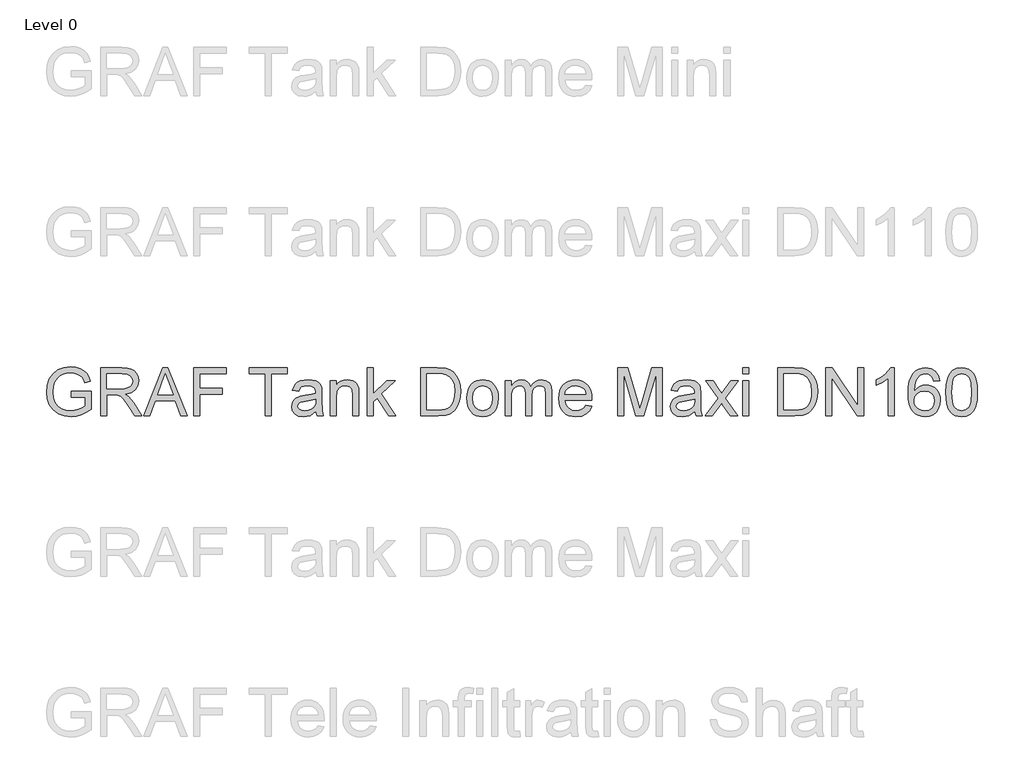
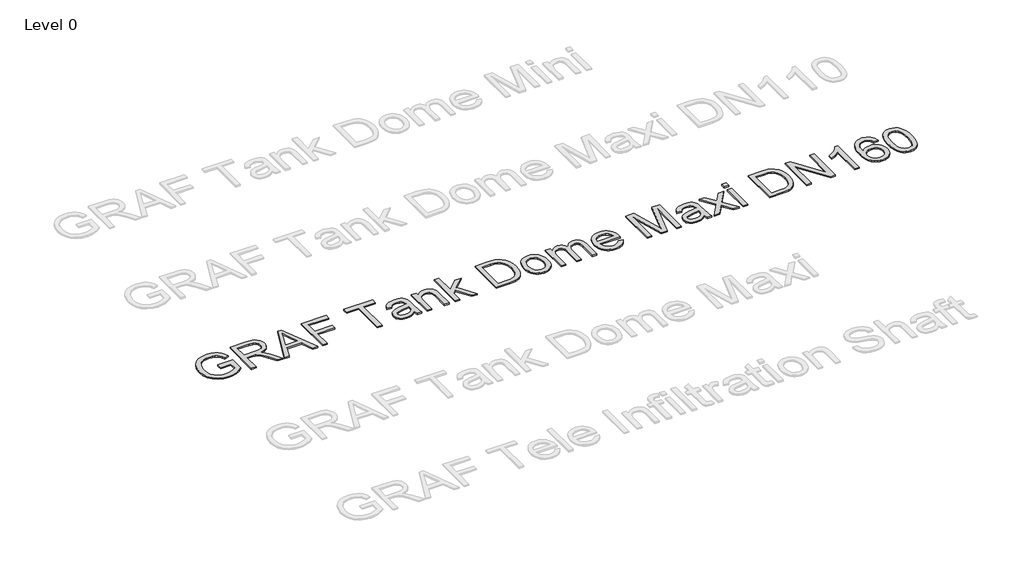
# One storey, part 8 of 25: 1 proxy.
"""IFC4 building model written with IfcOpenShell, lengths in millimetres."""

from ifc_helpers import new_model, si_unit, origin, origin_with_axes, place, context, project, spatial, polyline, outline, extrude, element, save

model = new_model("IFC4")

# Units and contexts
model_context = context("Model", 3, world=origin())
ifc_project = project(units=[si_unit("LENGTHUNIT", "METRE", prefix="MILLI")], contexts=[model_context])

# Site, building, storey
site = spatial("IfcSite", under=ifc_project)
building = spatial("IfcBuilding", under=site)
storey = spatial("IfcBuildingStorey", under=building, Name="Level 0", Elevation=0.0)

# Proxy
placement = place(None, origin())
element("IfcBuildingElementProxy", 1, Name="300mm Arial", ObjectType="300mm Arial", at=placement, inside=storey, context=model_context, shape_type="SweptSolid", body=[
    extrude(outline(polyline([(-15240.9940387, -4083.2545597), (-15240.9940387, -4045.5834434), (-15118.5629107, -4045.5834434), (-15118.5629107, -4158.2289103), (-15148.3153671, -4178.9222726), (-15179.0059225, -4193.7663111), (-15210.5610007, -4202.7058436), (-15242.9070251, -4205.6856877), (-15285.1674693, -4200.949207), (-15323.3628175, -4186.739765), (-15355.0926395, -4163.5540022), (-15377.9565055, -4131.8885595), (-15391.7796715, -4093.9047435), (-15396.3873935, -4051.7638609), (-15391.7980656, -4009.3194757), (-15378.0300819, -3969.8365406), (-15355.6536596, -3936.717964), (-15325.2390156, -3913.3666543), (-15288.1932987, -3899.5158972), (-15245.9236575, -3894.8989782), (-15214.8928112, -3897.5753197), (-15186.9889618, -3905.6043443), (-15163.4904994, -3918.4066377), (-15145.6758138, -3935.4027859), (-15132.4964413, -3957.4113262), (-15122.9039183, -3985.2507962), (-15157.6319786, -3995.0364573), (-15165.3850917, -3975.1800266), (-15174.8120678, -3960.1980323), (-15187.2832674, -3948.9040551), (-15204.169051, -3940.1116754), (-15224.3013932, -3934.4554897), (-15246.5122687, -3932.5700945), (-15272.5123287, -3934.6026425), (-15294.7415982, -3940.7002866), (-15313.1173039, -3950.0996716), (-15327.5566722, -3962.0374423), (-15346.9440533, -3991.0633317), (-15355.7732212, -4019.50061), (-15358.7162772, -4050.2187566), (-15355.175413, -4086.2436009), (-15344.5528204, -4115.8856927), (-15327.1703961, -4138.9334997), (-15303.3500369, -4155.1754898), (-15275.4737787, -4164.804801), (-15245.9236575, -4168.0145714), (-15219.831627, -4165.5957473), (-15194.3833899, -4158.3392749), (-15172.2828791, -4148.3420817), (-15156.234027, -4137.701095), (-15156.234027, -4083.2545597), (-15240.9940387, -4083.2545597)])), origin_with_axes(), (0.0, 0.0, 1.0), 10.0),
    extrude(outline(polyline([(-15057.3473467, -4200.9767982), (-15057.3473467, -3899.6078677), (-14927.4850024, -3899.6078677), (-14892.5821982, -3901.6404158), (-14867.1891434, -3907.7380598), (-14848.6294968, -3918.9952489), (-14834.2269167, -3936.5064318), (-14824.9838815, -3958.2206666), (-14821.9028698, -3982.087011), (-14827.0072325, -4011.7750881), (-14842.3203206, -4036.3863935), (-14853.9200997, -4046.4157764), (-14868.3019865, -4054.4310054), (-14905.4120827, -4064.4190016), (-14884.0013506, -4080.532233), (-14853.467145, -4119.3069952), (-14803.2144645, -4200.9767982), (-14846.9924219, -4200.9767982), (-14886.2086426, -4138.5104354), (-14914.5355562, -4097.1604991), (-14934.4379722, -4077.6259652), (-14952.3538253, -4070.4522663), (-14974.2060158, -4069.1278911), (-15019.6762304, -4069.1278911), (-15019.6762304, -4200.9767982), (-15057.3473467, -4200.9767982)]), holes=[polyline([(-15019.6762304, -4031.4567748), (-14935.3576771, -4031.4567748), (-14911.1418448, -4030.1232026), (-14892.3522719, -4026.1224859), (-14878.2072092, -4019.1879103), (-14867.9249074, -4009.0527613), (-14861.6617165, -3996.7930938), (-14859.5739861, -3983.4849626), (-14863.5563087, -3965.109257), (-14875.5032765, -3950.3020067), (-14896.058683, -3940.5347397), (-14925.8663217, -3937.278984), (-15019.6762304, -3937.278984), (-15019.6762304, -4031.4567748)])]), origin_with_axes(), (0.0, 0.0, 1.0), 10.0),
    extrude(outline(polyline([(-14791.0743586, -4200.9767982), (-14670.7769462, -3899.6078677), (-14638.6976362, -3899.6078677), (-14518.4002238, -4200.9767982), (-14558.2050557, -4200.9767982), (-14592.7123868, -4106.7990074), (-14716.835772, -4106.7990074), (-14751.2695268, -4200.9767982), (-14791.0743586, -4200.9767982)]), holes=[polyline([(-14703.003409, -4069.1278911), (-14606.4711735, -4069.1278911), (-14633.6208647, -3995.0364573), (-14654.7372912, -3937.278984), (-14673.499273, -3988.5617342), (-14703.003409, -4069.1278911)])]), origin_with_axes(), (0.0, 0.0, 1.0), 10.0),
    extrude(outline(polyline([(-14478.1539335, -4200.9767982), (-14478.1539335, -3899.6078677), (-14275.6716834, -3899.6078677), (-14275.6716834, -3937.278984), (-14440.4828172, -3937.278984), (-14440.4828172, -4026.7478853), (-14299.2161311, -4026.7478853), (-14299.2161311, -4064.4190016), (-14440.4828172, -4064.4190016), (-14440.4828172, -4200.9767982), (-14478.1539335, -4200.9767982)])), origin_with_axes(), (0.0, 0.0, 1.0), 10.0),
    extrude(outline(polyline([(-14030.8094274, -4200.9767982), (-14030.8094274, -3937.278984), (-14129.6961077, -3937.278984), (-14129.6961077, -3899.6078677), (-13894.2516308, -3899.6078677), (-13894.2516308, -3937.278984), (-13993.1383111, -3937.278984), (-13993.1383111, -4200.9767982), (-14030.8094274, -4200.9767982)])), origin_with_axes(), (0.0, 0.0, 1.0), 10.0),
    extrude(outline(polyline([(-13715.3138283, -4172.7234609), (-13733.312455, -4188.1561106), (-13751.8445105, -4198.2544714), (-13771.3330592, -4203.8278836), (-13792.2011653, -4205.6856877), (-13823.6826671, -4201.2159215), (-13846.905218, -4187.8066228), (-13861.2250247, -4167.4443543), (-13865.9982936, -4142.1156789), (-13864.1956718, -4126.4990883), (-13858.7878065, -4112.3172373), (-13850.4460822, -4100.1771315), (-13839.8418837, -4090.685776), (-13813.4647447, -4078.324941), (-13780.8703999, -4072.6595583), (-13742.353155, -4066.6998699), (-13715.5345575, -4059.710112), (-13715.3138283, -4051.3224025), (-13717.9073964, -4034.5101954), (-13725.6881006, -4023.5105237), (-13743.088919, -4015.3435434), (-13767.3323425, -4012.6212166), (-13789.7731442, -4014.4330355), (-13805.4449172, -4019.868492), (-13816.1318891, -4029.9208675), (-13823.6182877, -4045.5834434), (-13861.289404, -4040.8745539), (-13854.7503016, -4020.2731621), (-13844.9922316, -4004.0863544), (-13831.1046863, -3991.7071252), (-13812.1771577, -3982.5284694), (-13789.0281831, -3976.8446926), (-13762.4763001, -3974.9501003), (-13737.009669, -3976.6239634), (-13716.8221445, -3981.6455527), (-13701.601027, -3989.1963306), (-13691.0336167, -3998.4577598), (-13684.0254646, -4009.9080869), (-13679.482122, -4024.0255585), (-13677.642712, -4056.9877853), (-13677.642712, -4103.8559515), (-13675.7297257, -4169.3021584), (-13668.224933, -4200.9767982), (-13705.8960493, -4200.9767982), (-13715.3138283, -4172.7234609)]), holes=[polyline([(-13715.3138283, -4097.3812283), (-13776.0879339, -4108.932723), (-13808.4983377, -4115.0395641), (-13823.1768293, -4124.972378), (-13828.3271773, -4139.4669286), (-13825.522077, -4150.6689353), (-13817.1067764, -4159.8475911), (-13803.2652163, -4165.9728263), (-13784.1813378, -4168.0145714), (-13763.9478281, -4165.7612942), (-13746.0687631, -4159.0014625), (-13731.5742125, -4149.0410575), (-13721.4942459, -4137.1860602), (-13717.0244796, -4124.972378), (-13715.5345575, -4108.0498062), (-13715.3138283, -4097.3812283)])]), origin_with_axes(), (0.0, 0.0, 1.0), 10.0),
    extrude(outline(polyline([(-13625.8449271, -4200.9767982), (-13625.8449271, -3979.6589899), (-13588.1738108, -3979.6589899), (-13588.1738108, -4010.5610775), (-13575.0864088, -3994.981275), (-13559.3686506, -3983.8528446), (-13541.0205361, -3977.1757864), (-13520.0420653, -3974.9501003), (-13501.4732216, -3976.7435251), (-13484.4678764, -3982.1237992), (-13470.2860255, -3990.4195382), (-13460.1876647, -4000.9593574), (-13448.8936874, -4028.6608716), (-13446.9071247, -4065.0811892), (-13446.9071247, -4200.9767982), (-13484.578241, -4200.9767982), (-13484.578241, -4070.1579607), (-13488.9192485, -4036.8278519), (-13494.9249221, -4026.9042351), (-13504.2599277, -4019.2063044), (-13516.2252896, -4014.2674886), (-13530.122032, -4012.6212166), (-13552.1857546, -4016.3184307), (-13570.9937216, -4027.4100729), (-13578.5100106, -4036.4645685), (-13583.8787885, -4048.8391991), (-13588.1738108, -4083.5488653), (-13588.1738108, -4200.9767982), (-13625.8449271, -4200.9767982)])), origin_with_axes(), (0.0, 0.0, 1.0), 10.0),
    extrude(outline(polyline([(-13395.1093397, -4200.9767982), (-13395.1093397, -3899.6078677), (-13357.4382234, -3899.6078677), (-13357.4382234, -4061.549522), (-13272.9725173, -3979.6589899), (-13220.8804268, -3979.6589899), (-13306.3762025, -4062.5795916), (-13216.1715373, -4200.9767982), (-13260.1702239, -4200.9767982), (-13333.3787409, -4088.7727896), (-13357.4382234, -4112.0965081), (-13357.4382234, -4200.9767982), (-13395.1093397, -4200.9767982)])), origin_with_axes(), (0.0, 0.0, 1.0), 10.0),
    extrude(outline(polyline([(-13060.7781825, -4200.9767982), (-13060.7781825, -3899.6078677), (-12956.8147307, -3899.6078677), (-12903.030383, -3903.9488753), (-12879.0076887, -3912.3181907), (-12858.7373908, -3925.5067602), (-12837.8968757, -3948.4625967), (-12823.0528372, -3977.0102395), (-12814.1684871, -4010.5978657), (-12811.207037, -4048.6736522), (-12813.2119939, -4081.0196766), (-12819.2268645, -4109.484546), (-12828.3871262, -4133.7187724), (-12839.8282562, -4153.372868), (-12852.9984316, -4168.8882911), (-12867.3458295, -4180.7065002), (-12883.8177458, -4189.4712888), (-12903.3614768, -4195.8264502), (-12951.8115355, -4200.9767982), (-13060.7781825, -4200.9767982)]), holes=[polyline([(-13023.1070662, -4163.3056819), (-12956.4468487, -4163.3056819), (-12928.8740931, -4161.9445185), (-12907.9600017, -4157.8610283), (-12892.1778641, -4151.2943347), (-12880.0009701, -4142.4835609), (-12866.9135681, -4126.1771915), (-12857.0819218, -4105.069962), (-12850.9290954, -4079.069902), (-12848.8781533, -4048.085041), (-12852.8972641, -4007.0294103), (-12864.9545965, -3976.7159339), (-12882.7692821, -3955.893813), (-12904.0604526, -3943.3122488), (-12925.7287021, -3938.7873002), (-12957.4769183, -3937.278984), (-13023.1070662, -3937.278984), (-13023.1070662, -4163.3056819)])]), origin_with_axes(), (0.0, 0.0, 1.0), 10.0),
    extrude(outline(polyline([(-12773.5359207, -4090.317894), (-12771.4987741, -4061.6552881), (-12765.3873345, -4036.9566106), (-12755.2016018, -4016.2218617), (-12740.9415759, -3999.4510412), (-12726.5849811, -3988.7318796), (-12710.7384641, -3981.0753356), (-12693.4020251, -3976.4814091), (-12674.575664, -3974.9501003), (-12653.7926305, -3976.8148022), (-12635.0007584, -3982.4089078), (-12618.2000475, -3991.7324171), (-12603.3904979, -4004.7853302), (-12591.3032751, -4021.1261885), (-12582.6695445, -4040.3135338), (-12577.4893062, -4062.3473661), (-12575.7625601, -4087.2276853), (-12578.8159806, -4125.2850777), (-12587.9762423, -4154.2557848), (-12602.9766307, -4175.9516255), (-12623.5504313, -4192.1844185), (-12647.9869928, -4202.3103704), (-12674.575664, -4205.6856877), (-12695.6622001, -4203.8278836), (-12714.6288162, -4198.2544714), (-12731.4755123, -4188.965451), (-12746.2022884, -4175.9608225), (-12758.1607526, -4159.461315), (-12766.7025126, -4139.6876578), (-12771.8275687, -4116.6398508), (-12773.5359207, -4090.317894)]), holes=[polyline([(-12735.8648044, -4090.2443176), (-12731.5054027, -4124.3377815), (-12718.4271978, -4148.6271903), (-12698.7455111, -4163.1677261), (-12674.575664, -4168.0145714), (-12650.5161815, -4163.140135), (-12630.871283, -4148.5168257), (-12617.793078, -4123.9055202), (-12613.4336764, -4089.0670952), (-12617.8206692, -4055.9669127), (-12630.9816476, -4032.0085978), (-12650.6541372, -4017.4680619), (-12674.575664, -4012.6212166), (-12698.7455111, -4017.4496678), (-12718.4271978, -4031.9350214), (-12731.5054027, -4056.1692478), (-12735.8648044, -4090.2443176)])]), origin_with_axes(), (0.0, 0.0, 1.0), 10.0),
    extrude(outline(polyline([(-12533.3825542, -4200.9767982), (-12533.3825542, -3979.6589899), (-12495.7114379, -3979.6589899), (-12495.7114379, -4016.0793074), (-12484.3806725, -3999.3498737), (-12469.8125455, -3986.2440776), (-12452.5036976, -3977.7735947), (-12432.9507696, -3974.9501003), (-12411.9998899, -3977.828777), (-12395.2060768, -3986.4648068), (-12382.6613008, -4000.2879728), (-12374.4575323, -4018.7280578), (-12360.7263368, -3999.5752014), (-12345.0637609, -3985.8945897), (-12327.4698045, -3977.6862227), (-12307.9444676, -3974.9501003), (-12279.626751, -3979.50264), (-12258.6850684, -3993.1602591), (-12245.7448193, -4016.2908395), (-12241.4314029, -4049.2622634), (-12241.4314029, -4200.9767982), (-12279.1025192, -4200.9767982), (-12279.1025192, -4065.4490712), (-12282.5973981, -4033.9951606), (-12287.5086228, -4025.3223425), (-12295.2525388, -4018.5073286), (-12305.2129438, -4014.0927446), (-12316.7736355, -4012.6212166), (-12337.1818892, -4016.3920071), (-12353.8193524, -4027.7043784), (-12364.8834034, -4047.3308829), (-12368.5714204, -4076.0440726), (-12368.5714204, -4200.9767982), (-12406.2425367, -4200.9767982), (-12406.2425367, -4061.2552164), (-12408.4222375, -4039.9548489), (-12414.96134, -4024.7613225), (-12426.4668494, -4015.6562431), (-12443.545771, -4012.6212166), (-12458.0587157, -4014.6445676), (-12471.4312262, -4020.7146205), (-12482.4676861, -4030.6842226), (-12489.9724788, -4044.406221), (-12494.2766981, -4063.4441143), (-12495.7114379, -4089.3614008), (-12495.7114379, -4200.9767982), (-12533.3825542, -4200.9767982)])), origin_with_axes(), (0.0, 0.0, 1.0), 10.0),
    extrude(outline(polyline([(-12029.972832, -4135.0523446), (-11993.0374797, -4139.7612342), (-12006.3456109, -4167.5915071), (-12027.5815991, -4188.3952339), (-12056.2671976, -4201.3630743), (-12091.92416, -4205.6856877), (-12115.2984623, -4203.8209859), (-12136.1251817, -4198.2268803), (-12154.4043184, -4188.9033709), (-12170.1358722, -4175.8504579), (-12182.7864143, -4159.4314246), (-12191.8225158, -4140.0095545), (-12197.2441767, -4117.5848477), (-12199.051397, -4092.157304), (-12197.2257826, -4065.8675369), (-12191.7489394, -4042.6955698), (-12182.6208674, -4022.6414025), (-12169.8415666, -4005.7050351), (-12154.1513995, -3992.2497512), (-12136.2907286, -3982.638834), (-12116.259554, -3976.8722838), (-12094.0578756, -3974.9501003), (-12072.5712678, -3976.8676852), (-12053.1402007, -3982.6204399), (-12035.7646742, -3992.2083644), (-12020.4446884, -4005.6314587), (-12007.9389998, -4022.5310379), (-11999.0063651, -4042.548417), (-11993.6467843, -4065.6835959), (-11991.8602573, -4091.9365748), (-11992.0809865, -4102.0901179), (-12161.3802807, -4102.0901179), (-12154.8595723, -4130.2882728), (-12139.7120312, -4151.0184232), (-12117.8506436, -4163.7655344), (-12091.188396, -4168.0145714), (-12071.1388273, -4166.0464027), (-12054.2530437, -4160.1418967), (-12040.5310453, -4149.9331713), (-12029.972832, -4135.0523446)]), holes=[polyline([(-12161.3802807, -4064.4190016), (-12029.5313736, -4064.4190016), (-12034.6265393, -4044.5165856), (-12044.6145354, -4030.2795524), (-12066.5770906, -4017.0358006), (-12094.2050284, -4012.6212166), (-12119.5980831, -4016.1436868), (-12140.594948, -4026.7110971), (-12155.1906661, -4043.1830134), (-12161.3802807, -4064.4190016)])]), origin_with_axes(), (0.0, 0.0, 1.0), 10.0),
    extrude(outline(polyline([(-11831.758013, -4200.9767982), (-11831.758013, -3899.6078677), (-11766.9372055, -3899.6078677), (-11705.2801831, -4112.0229317), (-11692.8457717, -4156.3895004), (-11679.3812906, -4108.3441118), (-11618.7543378, -3899.6078677), (-11553.9335303, -3899.6078677), (-11553.9335303, -4200.9767982), (-11591.6046466, -4200.9767982), (-11591.6046466, -3937.278984), (-11667.3147612, -4200.9767982), (-11718.3767821, -4200.9767982), (-11794.0868967, -3937.278984), (-11794.0868967, -4200.9767982), (-11831.758013, -4200.9767982)])), origin_with_axes(), (0.0, 0.0, 1.0), 10.0),
    extrude(outline(polyline([(-11351.4512801, -4172.7234609), (-11369.4499067, -4188.1561106), (-11387.9819623, -4198.2544714), (-11407.4705109, -4203.8278836), (-11428.3386171, -4205.6856877), (-11459.8201189, -4201.2159215), (-11483.0426698, -4187.8066228), (-11497.3624765, -4167.4443543), (-11502.1357454, -4142.1156789), (-11500.3331236, -4126.4990883), (-11494.9252582, -4112.3172373), (-11486.583534, -4100.1771315), (-11475.9793355, -4090.685776), (-11449.6021964, -4078.324941), (-11417.0078517, -4072.6595583), (-11378.4906068, -4066.6998699), (-11351.6720093, -4059.710112), (-11351.4512801, -4051.3224025), (-11354.0448482, -4034.5101954), (-11361.8255524, -4023.5105237), (-11379.2263708, -4015.3435434), (-11403.4697942, -4012.6212166), (-11425.910596, -4014.4330355), (-11441.5823689, -4019.868492), (-11452.2693409, -4029.9208675), (-11459.7557395, -4045.5834434), (-11497.4268558, -4040.8745539), (-11490.8877534, -4020.2731621), (-11481.1296834, -4004.0863544), (-11467.2421381, -3991.7071252), (-11448.3146095, -3982.5284694), (-11425.1656349, -3976.8446926), (-11398.6137519, -3974.9501003), (-11373.1471208, -3976.6239634), (-11352.9595963, -3981.6455527), (-11337.7384788, -3989.1963306), (-11327.1710684, -3998.4577598), (-11320.1629164, -4009.9080869), (-11315.6195738, -4024.0255585), (-11313.7801638, -4056.9877853), (-11313.7801638, -4103.8559515), (-11311.8671774, -4169.3021584), (-11304.3623847, -4200.9767982), (-11342.0335011, -4200.9767982), (-11351.4512801, -4172.7234609)]), holes=[polyline([(-11351.4512801, -4097.3812283), (-11412.2253857, -4108.932723), (-11444.6357895, -4115.0395641), (-11459.3142811, -4124.972378), (-11464.464629, -4139.4669286), (-11461.6595288, -4150.6689353), (-11453.2442282, -4159.8475911), (-11439.4026681, -4165.9728263), (-11420.3187896, -4168.0145714), (-11400.0852799, -4165.7612942), (-11382.2062149, -4159.0014625), (-11367.7116643, -4149.0410575), (-11357.6316976, -4137.1860602), (-11353.1619314, -4124.972378), (-11351.6720093, -4108.0498062), (-11351.4512801, -4097.3812283)])]), origin_with_axes(), (0.0, 0.0, 1.0), 10.0),
    extrude(outline(polyline([(-11285.5268266, -4200.9767982), (-11205.0342461, -4089.7292828), (-11280.8179371, -3979.6589899), (-11235.4948753, -3979.6589899), (-11198.9274049, -4032.6339972), (-11181.8576804, -4057.6499729), (-11167.0688241, -4037.1957339), (-11125.4245823, -3979.6589899), (-11080.1015205, -3979.6589899), (-11159.7111842, -4089.7292828), (-11083.0445764, -4200.9767982), (-11128.3676383, -4200.9767982), (-11174.5000405, -4134.0958515), (-11182.9613263, -4121.8821692), (-11240.2037648, -4200.9767982), (-11285.5268266, -4200.9767982)])), origin_with_axes(), (0.0, 0.0, 1.0), 10.0),
    extrude(outline(polyline([(-11050.0823497, -3937.278984), (-11050.0823497, -3899.6078677), (-11012.4112334, -3899.6078677), (-11012.4112334, -3937.278984), (-11050.0823497, -3937.278984)])), origin_with_axes(), (0.0, 0.0, 1.0), 10.0),
    extrude(outline(polyline([(-11050.0823497, -4200.9767982), (-11050.0823497, -3979.6589899), (-11012.4112334, -3979.6589899), (-11012.4112334, -4200.9767982), (-11050.0823497, -4200.9767982)])), origin_with_axes(), (0.0, 0.0, 1.0), 10.0),
    extrude(outline(polyline([(-10833.4734309, -4200.9767982), (-10833.4734309, -3899.6078677), (-10729.5099791, -3899.6078677), (-10675.7256314, -3903.9488753), (-10651.7029371, -3912.3181907), (-10631.4326392, -3925.5067602), (-10610.5921241, -3948.4625967), (-10595.7480856, -3977.0102395), (-10586.8637355, -4010.5978657), (-10583.9022854, -4048.6736522), (-10585.9072423, -4081.0196766), (-10591.9221129, -4109.484546), (-10601.0823746, -4133.7187724), (-10612.5235046, -4153.372868), (-10625.69368, -4168.8882911), (-10640.0410779, -4180.7065002), (-10656.5129942, -4189.4712888), (-10676.0567252, -4195.8264502), (-10724.506784, -4200.9767982), (-10833.4734309, -4200.9767982)]), holes=[polyline([(-10795.8023146, -4163.3056819), (-10729.1420971, -4163.3056819), (-10701.5693416, -4161.9445185), (-10680.6552501, -4157.8610283), (-10664.8731125, -4151.2943347), (-10652.6962185, -4142.4835609), (-10639.6088165, -4126.1771915), (-10629.7771702, -4105.069962), (-10623.6243438, -4079.069902), (-10621.5734017, -4048.085041), (-10625.5925125, -4007.0294103), (-10637.6498449, -3976.7159339), (-10655.4645305, -3955.893813), (-10676.755701, -3943.3122488), (-10698.4239505, -3938.7873002), (-10730.1721667, -3937.278984), (-10795.8023146, -3937.278984), (-10795.8023146, -4163.3056819)])]), origin_with_axes(), (0.0, 0.0, 1.0), 10.0),
    extrude(outline(polyline([(-10532.1045005, -4200.9767982), (-10532.1045005, -3899.6078677), (-10491.7846338, -3899.6078677), (-10334.3311399, -4138.3632826), (-10334.3311399, -3899.6078677), (-10296.6600236, -3899.6078677), (-10296.6600236, -4200.9767982), (-10336.9798902, -4200.9767982), (-10494.4333842, -3962.1478069), (-10494.4333842, -4200.9767982), (-10532.1045005, -4200.9767982)])), origin_with_axes(), (0.0, 0.0, 1.0), 10.0),
    extrude(outline(polyline([(-10103.5955525, -4200.9767982), (-10141.2666688, -4200.9767982), (-10141.2666688, -3966.1209325), (-10176.9512223, -3991.5415783), (-10216.6089014, -4010.5610775), (-10216.6089014, -3974.9501003), (-10187.0219919, -3958.8552631), (-10161.3898139, -3939.7070052), (-10141.1838953, -3919.3447368), (-10127.8757642, -3899.6078677), (-10103.5955525, -3899.6078677), (-10103.5955525, -4200.9767982)])), origin_with_axes(), (0.0, 0.0, 1.0), 10.0),
    extrude(outline(polyline([(-9821.0621802, -3979.6589899), (-9858.7332965, -3984.3678794), (-9864.8033494, -3965.6978682), (-9873.0071179, -3952.950757), (-9890.0952366, -3941.1969273), (-9910.7518106, -3937.278984), (-9928.2629936, -3939.5598524), (-9944.744107, -3946.4024575), (-9958.8983667, -3960.8142347), (-9970.4590584, -3980.6522713), (-9978.2673538, -4008.7124704), (-9981.1644245, -4047.7907354), (-9966.0536715, -4030.1599908), (-9947.9446803, -4017.7347764), (-9927.8491263, -4010.3679394), (-9906.7786851, -4007.9123271), (-9888.6788909, -4009.5907887), (-9871.9770483, -4014.6261735), (-9856.6731573, -4023.0184815), (-9842.7672179, -4034.7677128), (-9831.2111247, -4049.1748914), (-9822.9567725, -4065.5410417), (-9818.0041611, -4083.8661635), (-9816.3532907, -4104.150257), (-9819.4618935, -4131.1252043), (-9828.7877021, -4156.131983), (-9843.5581642, -4177.34038), (-9863.0007276, -4192.9201825), (-9886.2324756, -4202.4943114), (-9912.3704914, -4205.6856877), (-9934.8273879, -4203.5703662), (-9955.1091822, -4197.2244018), (-9973.2158741, -4186.6477945), (-9989.1474638, -4171.8405442), (-10002.1359975, -4152.1772515), (-10011.4135215, -4127.0325171), (-10016.980036, -4096.406341), (-10018.8355408, -4060.2987232), (-10016.7754016, -4019.8179082), (-10010.5949841, -3985.2691903), (-10000.2942882, -3956.6525696), (-9985.873314, -3933.9680461), (-9970.2429278, -3918.9354681), (-9952.120141, -3908.1979123), (-9931.5049537, -3901.7553789), (-9908.3973659, -3899.6078677), (-9875.3431686, -3904.9237626), (-9848.874059, -3920.8714471), (-9830.3328065, -3946.2001224), (-9821.0621802, -3979.6589899)]), holes=[polyline([(-9981.1644245, -4103.5616459), (-9978.9847237, -4120.2542914), (-9972.4456212, -4136.1927788), (-9962.2920781, -4149.8963831), (-9949.2690555, -4159.8843793), (-9933.5512973, -4165.9820234), (-9915.3135474, -4168.0145714), (-9890.4539215, -4163.8023226), (-9870.9101905, -4151.165576), (-9858.2458529, -4131.2999483), (-9854.024407, -4105.4010558), (-9858.1906706, -4080.54143), (-9870.6894613, -4061.5863102), (-9890.5642861, -4049.5841601), (-9916.8586517, -4045.5834434), (-9941.6814894, -4049.5841601), (-9962.4392309, -4061.5863102), (-9976.4831261, -4080.0815775), (-9981.1644245, -4103.5616459)])]), origin_with_axes(), (0.0, 0.0, 1.0), 10.0),
    extrude(outline(polyline([(-9783.3910639, -4052.7203541), (-9780.6227519, -4004.4818275), (-9772.3178158, -3966.0105679), (-9758.5590292, -3936.717964), (-9739.4291655, -3916.0154047), (-9714.7902688, -3903.709752), (-9684.5043836, -3899.6078677), (-9661.2910297, -3902.0358889), (-9640.505697, -3909.3199524), (-9623.1232727, -3921.1749497), (-9610.1186442, -3937.3157722), (-9600.2961949, -3957.6044643), (-9592.4603084, -3981.9030701), (-9587.3283546, -4012.7591724), (-9585.6177033, -4052.7203541), (-9588.3584241, -4100.6829692), (-9596.5805867, -4139.0622584), (-9610.2565999, -4168.3824534), (-9629.3588725, -4189.1677861), (-9654.0529514, -4201.5562123), (-9684.5043836, -4205.6856877), (-9705.2529281, -4203.892263), (-9723.6470279, -4198.5119888), (-9739.6866829, -4189.5448652), (-9753.3718931, -4176.9908921), (-9766.5052803, -4154.2971715), (-9775.8862712, -4126.0208417), (-9781.5148657, -4092.1619025), (-9783.3910639, -4052.7203541)]), holes=[polyline([(-9745.7199476, -4052.6467777), (-9741.3053636, -4111.9033701), (-9735.7871337, -4132.1713688), (-9728.0616118, -4146.1991691), (-9708.3431369, -4162.5607208), (-9684.5043836, -4168.0145714), (-9660.6656303, -4162.5423267), (-9640.9471554, -4146.1255927), (-9633.2216335, -4132.0747997), (-9627.7034035, -4111.8113996), (-9623.2888196, -4052.6467777), (-9627.5562507, -3994.7237576), (-9632.8905397, -3974.5224375), (-9640.3585442, -3960.1612441), (-9660.0402309, -3942.9995491), (-9684.945842, -3937.278984), (-9708.5270779, -3942.3189674), (-9727.4730006, -3957.4389174), (-9735.4560399, -3973.0739022), (-9741.1582108, -3994.1535405), (-9745.7199476, -4052.6467777)])]), origin_with_axes(), (0.0, 0.0, 1.0), 10.0),
])

save(model, "model.ifc")
